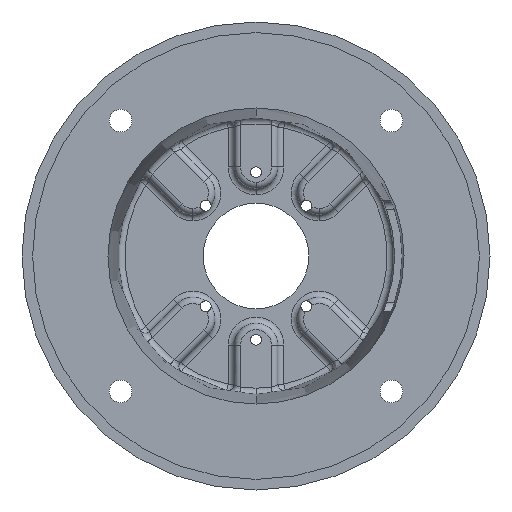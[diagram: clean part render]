
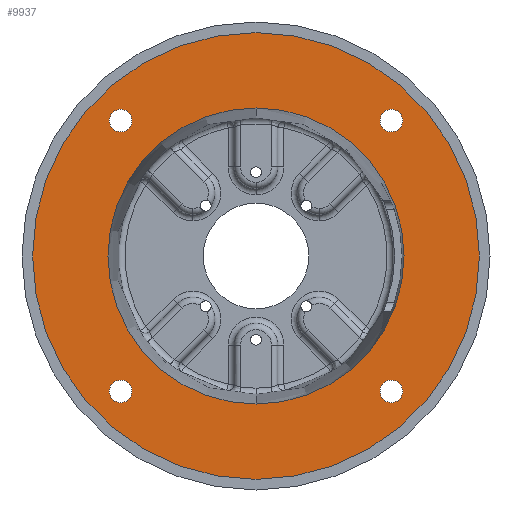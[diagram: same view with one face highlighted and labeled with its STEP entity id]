
A CAD part, front view. The second image highlights one B-rep face of the part: STEP entity #9937.
In plain terms, the highlighted planar face has unit normal (0, -1, 0).
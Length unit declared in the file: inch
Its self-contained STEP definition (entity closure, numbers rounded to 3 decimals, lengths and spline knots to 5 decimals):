
#52 = CARTESIAN_POINT ( 'NONE',  ( -3.18198, 0.18, -3.44761 ) ) ;
#54 = CIRCLE ( 'NONE', #3544, 0.26562 ) ;
#187 = EDGE_LOOP ( 'NONE', ( #8719, #1820 ) ) ;
#300 = FACE_BOUND ( 'NONE', #11271, .T. ) ;
#375 = CIRCLE ( 'NONE', #538, 3.47973 ) ;
#391 = VERTEX_POINT ( 'NONE', #2791 ) ;
#517 = CARTESIAN_POINT ( 'NONE',  ( 3.18198, 0.18, -3.44761 ) ) ;
#538 = AXIS2_PLACEMENT_3D ( 'NONE', #2698, #10437, #3819 ) ;
#711 = EDGE_CURVE ( 'NONE', #13328, #4488, #5679, .T. ) ;
#785 = ORIENTED_EDGE ( 'NONE', *, *, #2336, .F. ) ;
#866 = DIRECTION ( 'NONE',  ( 0., -1., 0. ) ) ;
#892 = CARTESIAN_POINT ( 'NONE',  ( -3.18198, 0.18, -3.18198 ) ) ;
#1017 = CARTESIAN_POINT ( 'NONE',  ( 0., 0.18, 0. ) ) ;
#1124 = CARTESIAN_POINT ( 'NONE',  ( -3.18198, 0.18, 2.91636 ) ) ;
#1134 = EDGE_CURVE ( 'NONE', #391, #3474, #11012, .T. ) ;
#1197 = DIRECTION ( 'NONE',  ( 0., -1., 0. ) ) ;
#1753 = AXIS2_PLACEMENT_3D ( 'NONE', #8429, #1821, #9560 ) ;
#1820 = ORIENTED_EDGE ( 'NONE', *, *, #6811, .F. ) ;
#1821 = DIRECTION ( 'NONE',  ( 0., -1., 0. ) ) ;
#1883 = ORIENTED_EDGE ( 'NONE', *, *, #11751, .F. ) ;
#2002 = DIRECTION ( 'NONE',  ( 0., 0., -1. ) ) ;
#2074 = CIRCLE ( 'NONE', #10998, 0.26562 ) ;
#2140 = ORIENTED_EDGE ( 'NONE', *, *, #4574, .F. ) ;
#2141 = DIRECTION ( 'NONE',  ( 0., 0., -1. ) ) ;
#2285 = CARTESIAN_POINT ( 'NONE',  ( 0., 0.18, 5.2505 ) ) ;
#2336 = EDGE_CURVE ( 'NONE', #10864, #13087, #2074, .T. ) ;
#2359 = CARTESIAN_POINT ( 'NONE',  ( 3.18198, 0.18, 3.44761 ) ) ;
#2504 = AXIS2_PLACEMENT_3D ( 'NONE', #5672, #13376, #6761 ) ;
#2540 = FACE_BOUND ( 'NONE', #7945, .T. ) ;
#2698 = CARTESIAN_POINT ( 'NONE',  ( 0., 0.18, 0. ) ) ;
#2787 = CIRCLE ( 'NONE', #9236, 3.47973 ) ;
#2791 = CARTESIAN_POINT ( 'NONE',  ( 3.18198, 0.18, -2.91636 ) ) ;
#2904 = EDGE_LOOP ( 'NONE', ( #12354, #3385 ) ) ;
#3219 = FACE_BOUND ( 'NONE', #2904, .T. ) ;
#3291 = CIRCLE ( 'NONE', #13353, 5.2505 ) ;
#3325 = EDGE_LOOP ( 'NONE', ( #2140, #1883 ) ) ;
#3385 = ORIENTED_EDGE ( 'NONE', *, *, #1134, .F. ) ;
#3474 = VERTEX_POINT ( 'NONE', #517 ) ;
#3544 = AXIS2_PLACEMENT_3D ( 'NONE', #6420, #14145, #7527 ) ;
#3575 = AXIS2_PLACEMENT_3D ( 'NONE', #7463, #866, #8592 ) ;
#3819 = DIRECTION ( 'NONE',  ( 0., 0., -1. ) ) ;
#4327 = CARTESIAN_POINT ( 'NONE',  ( -3.18198, 0.18, -3.18198 ) ) ;
#4459 = ORIENTED_EDGE ( 'NONE', *, *, #6963, .T. ) ;
#4488 = VERTEX_POINT ( 'NONE', #11252 ) ;
#4563 = EDGE_CURVE ( 'NONE', #13087, #10864, #5932, .T. ) ;
#4574 = EDGE_CURVE ( 'NONE', #11174, #10124, #54, .T. ) ;
#4717 = CARTESIAN_POINT ( 'NONE',  ( -3.18198, 0.18, 3.18198 ) ) ;
#4847 = CARTESIAN_POINT ( 'NONE',  ( 0., 0.18, 0. ) ) ;
#4873 = DIRECTION ( 'NONE',  ( 0., -1., 0. ) ) ;
#4955 = CARTESIAN_POINT ( 'NONE',  ( 3.18198, 0.18, 2.91636 ) ) ;
#5037 = ORIENTED_EDGE ( 'NONE', *, *, #8016, .T. ) ;
#5150 = CIRCLE ( 'NONE', #3575, 0.26562 ) ;
#5437 = DIRECTION ( 'NONE',  ( 0., 0., -1. ) ) ;
#5467 = FACE_BOUND ( 'NONE', #3325, .T. ) ;
#5507 = CARTESIAN_POINT ( 'NONE',  ( 0., 0.18, 3.47973 ) ) ;
#5672 = CARTESIAN_POINT ( 'NONE',  ( 3.18198, 0.18, 3.18198 ) ) ;
#5679 = CIRCLE ( 'NONE', #1753, 0.26562 ) ;
#5772 = DIRECTION ( 'NONE',  ( 0., -1., 0. ) ) ;
#5841 = DIRECTION ( 'NONE',  ( 0., 0., -1. ) ) ;
#5932 = CIRCLE ( 'NONE', #12688, 0.26562 ) ;
#5955 = DIRECTION ( 'NONE',  ( 0., 0., -1. ) ) ;
#6111 = VERTEX_POINT ( 'NONE', #13898 ) ;
#6361 = CIRCLE ( 'NONE', #2504, 0.26562 ) ;
#6420 = CARTESIAN_POINT ( 'NONE',  ( 3.18198, 0.18, 3.18198 ) ) ;
#6584 = EDGE_CURVE ( 'NONE', #12151, #6111, #2787, .T. ) ;
#6761 = DIRECTION ( 'NONE',  ( 0., 0., -1. ) ) ;
#6811 = EDGE_CURVE ( 'NONE', #4488, #13328, #9881, .T. ) ;
#6944 = EDGE_CURVE ( 'NONE', #11172, #12199, #3291, .T. ) ;
#6963 = EDGE_CURVE ( 'NONE', #6111, #12151, #375, .T. ) ;
#6993 = PLANE ( 'NONE',  #13297 ) ;
#7242 = ORIENTED_EDGE ( 'NONE', *, *, #6944, .T. ) ;
#7463 = CARTESIAN_POINT ( 'NONE',  ( 3.18198, 0.18, -3.18198 ) ) ;
#7527 = DIRECTION ( 'NONE',  ( 0., 0., -1. ) ) ;
#7792 = CARTESIAN_POINT ( 'NONE',  ( 0., 0.18, 0. ) ) ;
#7813 = ORIENTED_EDGE ( 'NONE', *, *, #4563, .F. ) ;
#7945 = EDGE_LOOP ( 'NONE', ( #4459, #9992 ) ) ;
#8016 = EDGE_CURVE ( 'NONE', #12199, #11172, #12224, .T. ) ;
#8131 = AXIS2_PLACEMENT_3D ( 'NONE', #12356, #5772, #13476 ) ;
#8206 = CARTESIAN_POINT ( 'NONE',  ( -3.18198, 0.18, -2.91636 ) ) ;
#8424 = FACE_BOUND ( 'NONE', #187, .T. ) ;
#8429 = CARTESIAN_POINT ( 'NONE',  ( -3.18198, 0.18, 3.18198 ) ) ;
#8498 = EDGE_CURVE ( 'NONE', #3474, #391, #5150, .T. ) ;
#8592 = DIRECTION ( 'NONE',  ( 0., 0., -1. ) ) ;
#8621 = DIRECTION ( 'NONE',  ( 0., -1., 0. ) ) ;
#8719 = ORIENTED_EDGE ( 'NONE', *, *, #711, .F. ) ;
#8750 = DIRECTION ( 'NONE',  ( 0., 1., 0. ) ) ;
#8919 = DIRECTION ( 'NONE',  ( 0., 0., -1. ) ) ;
#8940 = AXIS2_PLACEMENT_3D ( 'NONE', #4717, #12430, #5841 ) ;
#9236 = AXIS2_PLACEMENT_3D ( 'NONE', #1017, #8750, #2141 ) ;
#9560 = DIRECTION ( 'NONE',  ( 0., 0., -1. ) ) ;
#9881 = CIRCLE ( 'NONE', #8940, 0.26562 ) ;
#9937 = ADVANCED_FACE ( 'NONE', ( #8424, #5467, #3219, #300, #14263, #2540 ), #6993, .T. ) ;
#9992 = ORIENTED_EDGE ( 'NONE', *, *, #6584, .T. ) ;
#10124 = VERTEX_POINT ( 'NONE', #2359 ) ;
#10437 = DIRECTION ( 'NONE',  ( 0., 1., 0. ) ) ;
#10864 = VERTEX_POINT ( 'NONE', #52 ) ;
#10998 = AXIS2_PLACEMENT_3D ( 'NONE', #4327, #12026, #5437 ) ;
#11012 = CIRCLE ( 'NONE', #8131, 0.26562 ) ;
#11024 = EDGE_LOOP ( 'NONE', ( #7242, #5037 ) ) ;
#11172 = VERTEX_POINT ( 'NONE', #11564 ) ;
#11174 = VERTEX_POINT ( 'NONE', #4955 ) ;
#11252 = CARTESIAN_POINT ( 'NONE',  ( -3.18198, 0.18, 3.44761 ) ) ;
#11271 = EDGE_LOOP ( 'NONE', ( #785, #7813 ) ) ;
#11473 = CARTESIAN_POINT ( 'NONE',  ( 0., 0.18, 0. ) ) ;
#11511 = AXIS2_PLACEMENT_3D ( 'NONE', #7792, #1197, #8919 ) ;
#11564 = CARTESIAN_POINT ( 'NONE',  ( 0., 0.18, -5.2505 ) ) ;
#11751 = EDGE_CURVE ( 'NONE', #10124, #11174, #6361, .T. ) ;
#12026 = DIRECTION ( 'NONE',  ( 0., -1., 0. ) ) ;
#12151 = VERTEX_POINT ( 'NONE', #5507 ) ;
#12199 = VERTEX_POINT ( 'NONE', #2285 ) ;
#12224 = CIRCLE ( 'NONE', #11511, 5.2505 ) ;
#12354 = ORIENTED_EDGE ( 'NONE', *, *, #8498, .F. ) ;
#12356 = CARTESIAN_POINT ( 'NONE',  ( 3.18198, 0.18, -3.18198 ) ) ;
#12430 = DIRECTION ( 'NONE',  ( 0., -1., 0. ) ) ;
#12538 = DIRECTION ( 'NONE',  ( 0., -1., 0. ) ) ;
#12578 = DIRECTION ( 'NONE',  ( 0., 0., -1. ) ) ;
#12688 = AXIS2_PLACEMENT_3D ( 'NONE', #892, #8621, #2002 ) ;
#13087 = VERTEX_POINT ( 'NONE', #8206 ) ;
#13297 = AXIS2_PLACEMENT_3D ( 'NONE', #4847, #12538, #5955 ) ;
#13328 = VERTEX_POINT ( 'NONE', #1124 ) ;
#13353 = AXIS2_PLACEMENT_3D ( 'NONE', #11473, #4873, #12578 ) ;
#13376 = DIRECTION ( 'NONE',  ( 0., -1., 0. ) ) ;
#13476 = DIRECTION ( 'NONE',  ( 0., 0., -1. ) ) ;
#13898 = CARTESIAN_POINT ( 'NONE',  ( 0., 0.18, -3.47973 ) ) ;
#14145 = DIRECTION ( 'NONE',  ( 0., -1., 0. ) ) ;
#14263 = FACE_OUTER_BOUND ( 'NONE', #11024, .T. ) ;
